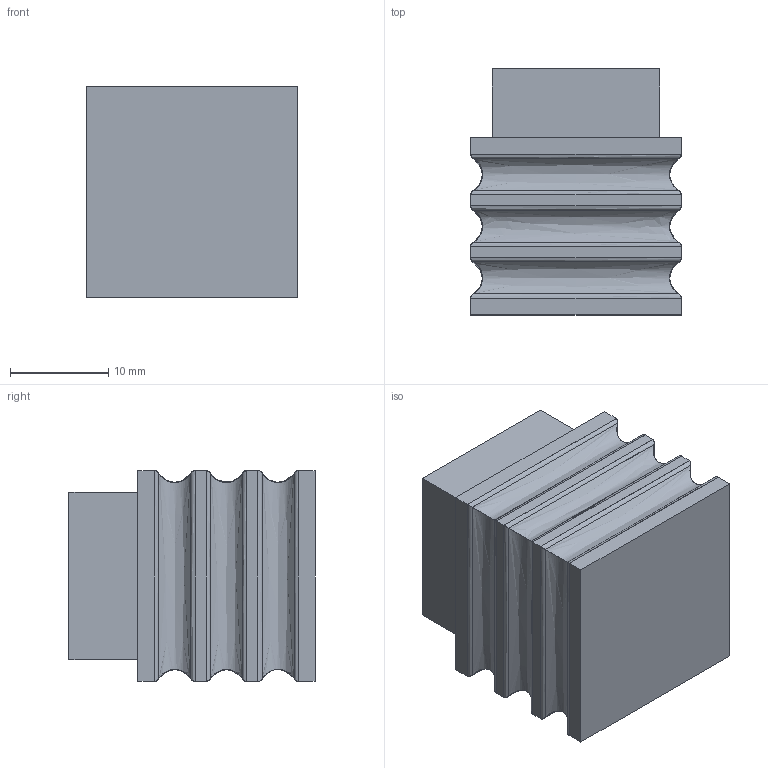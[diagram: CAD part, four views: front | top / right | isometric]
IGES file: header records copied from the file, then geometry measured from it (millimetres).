
Start section: Data from Parasolid IGES Translator 15.0.47, Copyright(c) 2006 Siemens P LM Software. All Rights Reserved.
Global section: file name: 9208068.igs; native system:  By UGS Corp.; preprocessor: XPlus GENERIC/IGES 3.0; author: Noname; organization: Noname; date: 20160303.182850; units: millimetre
Bounding box: 21.42 x 25 x 21.42 mm (x, y, z)
Surface area: 3173.1 mm2 (no closed solid volume)
Topology: 0 solids, 0 shells, 67 faces, 276 edges, 276 vertices
Faces by surface type: revolution 43, extrusion 24
